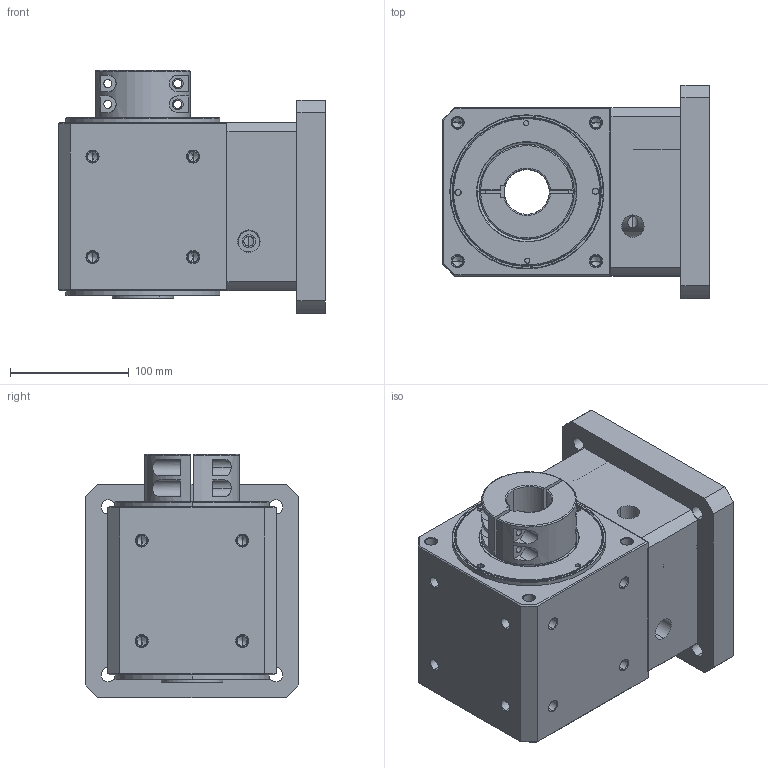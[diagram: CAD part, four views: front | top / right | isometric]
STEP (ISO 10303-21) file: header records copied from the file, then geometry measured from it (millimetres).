
FILE_DESCRIPTION (( 'STEP AP203' ), '1' );
FILE_NAME ('WS150F-2-35-114.3-200-M12.STEP', '2012-10-06T06:02:20', ( 'user' ), ( 'SYNNEX' ), 'SwSTEP 2.0', 'SolidWorks 2008', '' );
FILE_SCHEMA (( 'CONFIG_CONTROL_DESIGN' ));
Length unit declared in the file: millimetre
Products named in the file (1): WS150F-2-35-114.3-200-M12
Bounding box: 225 x 180 x 205 mm (x, y, z)
Volume: 3397859.9 mm3; surface area: 620378.3 mm2
Topology: 13 solids, 13 shells, 1277 faces, 3188 edges, 1946 vertices
Faces by surface type: cylinder 384, cone 378, plane 236, sphere 160, torus 119
Entity records: 47007 total; most frequent: CARTESIAN_POINT 16227, DIRECTION 6750, ORIENTED_EDGE 6256, EDGE_CURVE 3128, AXIS2_PLACEMENT_3D 2905, VERTEX_POINT 1946, CIRCLE 1627, EDGE_LOOP 1536
